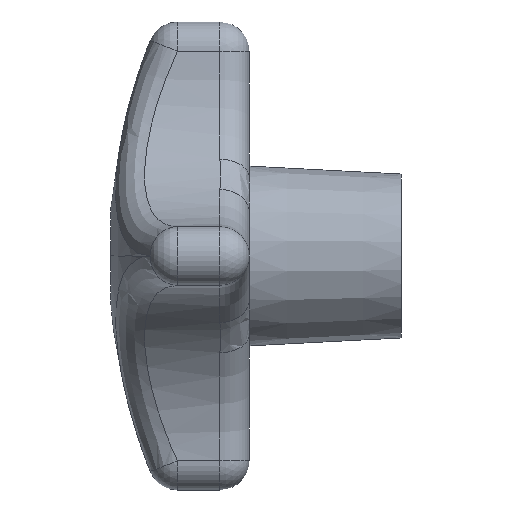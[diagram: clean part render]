
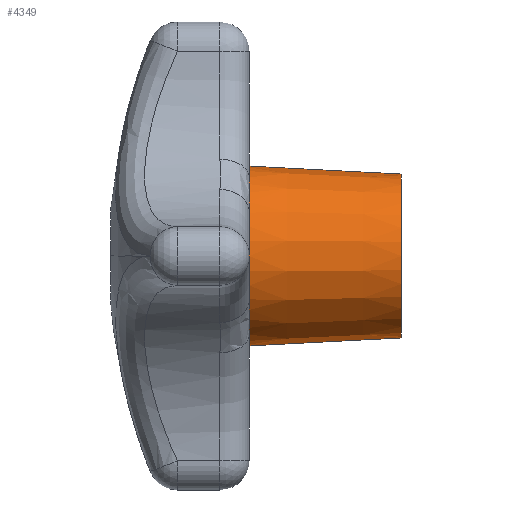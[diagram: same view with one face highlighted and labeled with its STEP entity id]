
A CAD part, left-side view. The second image highlights one B-rep face of the part: STEP entity #4349.
In plain terms, the highlighted conical face has half-angle 3 degrees and reference radius 7 mm.
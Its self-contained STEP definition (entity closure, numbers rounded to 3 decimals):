
#804 = EDGE_CURVE ( 'NONE', #1193, #4352, #2507, .T. ) ;
#806 = ORIENTED_EDGE ( 'NONE', *, *, #1199, .F. ) ;
#811 = ORIENTED_EDGE ( 'NONE', *, *, #804, .F. ) ;
#816 = EDGE_CURVE ( 'NONE', #822, #4328, #2483, .T. ) ;
#817 = ORIENTED_EDGE ( 'NONE', *, *, #4351, .F. ) ;
#822 = VERTEX_POINT ( 'NONE', #2530 ) ;
#1073 = VERTEX_POINT ( 'NONE', #2737 ) ;
#1074 = VERTEX_POINT ( 'NONE', #2736 ) ;
#1076 = VERTEX_POINT ( 'NONE', #2734 ) ;
#1078 = EDGE_CURVE ( 'NONE', #1076, #1073, #2733, .T. ) ;
#1189 = VERTEX_POINT ( 'NONE', #3280 ) ;
#1191 = EDGE_CURVE ( 'NONE', #1074, #1189, #3279, .T. ) ;
#1193 = VERTEX_POINT ( 'NONE', #3337 ) ;
#1199 = EDGE_CURVE ( 'NONE', #1073, #1193, #3330, .T. ) ;
#2481 = CARTESIAN_POINT ( 'NONE',  ( 0., 0., 0. ) ) ;
#2482 = AXIS2_PLACEMENT_3D ( 'NONE', #2481, #2545, #2544 ) ;
#2483 = CIRCLE ( 'NONE', #2482, 7.681 ) ;
#2504 = DIRECTION ( 'NONE',  ( 0., 0., 1. ) ) ;
#2505 = DIRECTION ( 'NONE',  ( 0., 1., 0. ) ) ;
#2506 = AXIS2_PLACEMENT_3D ( 'NONE', #2509, #2505, #2504 ) ;
#2507 = CIRCLE ( 'NONE', #2506, 7.681 ) ;
#2509 = CARTESIAN_POINT ( 'NONE',  ( 0., 0., 0. ) ) ;
#2530 = CARTESIAN_POINT ( 'NONE',  ( -6.726, 0., 3.71 ) ) ;
#2544 = DIRECTION ( 'NONE',  ( 0., 0., 1. ) ) ;
#2545 = DIRECTION ( 'NONE',  ( 0., 1., 0. ) ) ;
#2730 = DIRECTION ( 'NONE',  ( 0., 0.999, -0.052 ) ) ;
#2731 = VECTOR ( 'NONE', #2730, 1000. ) ;
#2732 = CARTESIAN_POINT ( 'NONE',  ( 0., -13., -7. ) ) ;
#2733 = LINE ( 'NONE', #2732, #2731 ) ;
#2734 = CARTESIAN_POINT ( 'NONE',  ( 0., -13., -7. ) ) ;
#2736 = CARTESIAN_POINT ( 'NONE',  ( 0., -13., 7. ) ) ;
#2737 = CARTESIAN_POINT ( 'NONE',  ( 0., 0., -7.681 ) ) ;
#3276 = DIRECTION ( 'NONE',  ( 0., 0.999, 0.052 ) ) ;
#3277 = VECTOR ( 'NONE', #3276, 1000. ) ;
#3278 = CARTESIAN_POINT ( 'NONE',  ( 0., -13., 7. ) ) ;
#3279 = LINE ( 'NONE', #3278, #3277 ) ;
#3280 = CARTESIAN_POINT ( 'NONE',  ( 0., 0., 7.681 ) ) ;
#3326 = DIRECTION ( 'NONE',  ( 0., 0., 1. ) ) ;
#3327 = DIRECTION ( 'NONE',  ( 0., 1., 0. ) ) ;
#3328 = CARTESIAN_POINT ( 'NONE',  ( 0., 0., 0. ) ) ;
#3329 = AXIS2_PLACEMENT_3D ( 'NONE', #3328, #3327, #3326 ) ;
#3330 = CIRCLE ( 'NONE', #3329, 7.681 ) ;
#3337 = CARTESIAN_POINT ( 'NONE',  ( -3.71, 0., -6.726 ) ) ;
#3467 = CARTESIAN_POINT ( 'NONE',  ( 0., -13., 0. ) ) ;
#3468 = AXIS2_PLACEMENT_3D ( 'NONE', #3467, #3533, #3532 ) ;
#3469 = CIRCLE ( 'NONE', #3468, 7. ) ;
#3470 = CARTESIAN_POINT ( 'NONE',  ( 0., 0., 0. ) ) ;
#3476 = CARTESIAN_POINT ( 'NONE',  ( -3.71, 0., 6.726 ) ) ;
#3516 = CARTESIAN_POINT ( 'NONE',  ( -6.726, 0., -3.71 ) ) ;
#3517 = DIRECTION ( 'NONE',  ( 0., 0., 1. ) ) ;
#3518 = DIRECTION ( 'NONE',  ( 0., 1., 0. ) ) ;
#3519 = CARTESIAN_POINT ( 'NONE',  ( 0., 0., 0. ) ) ;
#3520 = AXIS2_PLACEMENT_3D ( 'NONE', #3519, #3518, #3517 ) ;
#3521 = CIRCLE ( 'NONE', #3520, 7.681 ) ;
#3522 = DIRECTION ( 'NONE',  ( 0., 0., 1. ) ) ;
#3523 = DIRECTION ( 'NONE',  ( 0., 1., 0. ) ) ;
#3524 = AXIS2_PLACEMENT_3D ( 'NONE', #3525, #3523, #3522 ) ;
#3525 = CARTESIAN_POINT ( 'NONE',  ( 0., -13., 0. ) ) ;
#3526 = CONICAL_SURFACE ( 'NONE', #3524, 7., 0.052 ) ;
#3527 = FACE_OUTER_BOUND ( 'NONE', #4337, .T. ) ;
#3528 = DIRECTION ( 'NONE',  ( 0., 0., 1. ) ) ;
#3529 = DIRECTION ( 'NONE',  ( 0., 1., 0. ) ) ;
#3530 = AXIS2_PLACEMENT_3D ( 'NONE', #3470, #3529, #3528 ) ;
#3531 = CIRCLE ( 'NONE', #3530, 7.681 ) ;
#3532 = DIRECTION ( 'NONE',  ( 0., 0., 1. ) ) ;
#3533 = DIRECTION ( 'NONE',  ( 0., 1., 0. ) ) ;
#4328 = VERTEX_POINT ( 'NONE', #3476 ) ;
#4332 = ORIENTED_EDGE ( 'NONE', *, *, #1078, .F. ) ;
#4334 = ORIENTED_EDGE ( 'NONE', *, *, #1191, .T. ) ;
#4337 = EDGE_LOOP ( 'NONE', ( #4332, #4341, #4334, #4339, #4340, #817, #811, #806 ) ) ;
#4338 = EDGE_CURVE ( 'NONE', #1076, #1074, #3469, .T. ) ;
#4339 = ORIENTED_EDGE ( 'NONE', *, *, #4342, .F. ) ;
#4340 = ORIENTED_EDGE ( 'NONE', *, *, #816, .F. ) ;
#4341 = ORIENTED_EDGE ( 'NONE', *, *, #4338, .T. ) ;
#4342 = EDGE_CURVE ( 'NONE', #4328, #1189, #3531, .T. ) ;
#4349 = ADVANCED_FACE ( 'NONE', ( #3527 ), #3526, .T. ) ;
#4351 = EDGE_CURVE ( 'NONE', #4352, #822, #3521, .T. ) ;
#4352 = VERTEX_POINT ( 'NONE', #3516 ) ;
